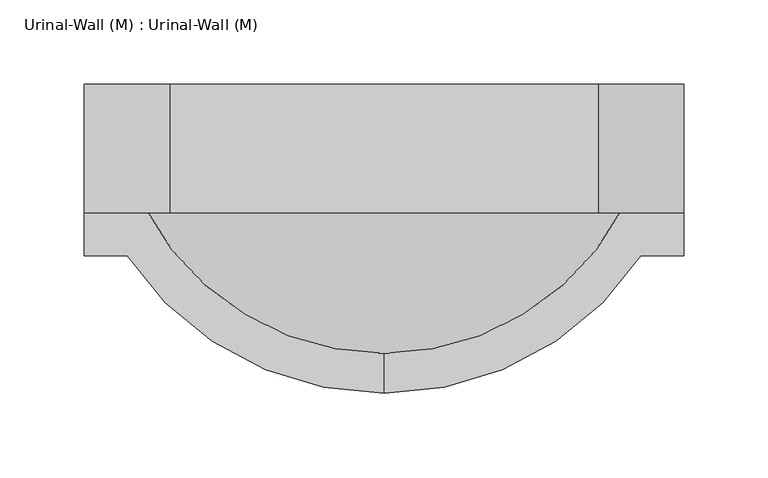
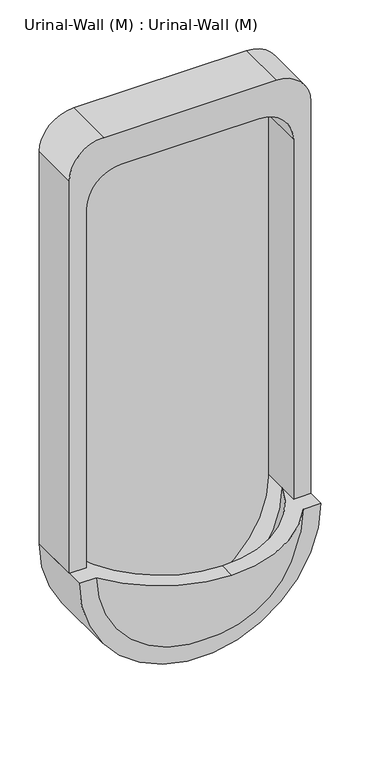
"""IFC4 building model written with IfcOpenShell, lengths in millimetres: flow terminal geometry, Urinal-Wall (M) : Urinal-Wall (M)."""

from ifc_helpers import new_model, si_unit, point, frame, frame_2d, origin, place, context, project, spatial, polyline, circle_curve, ellipse_curve, trimmed, segment, composite_curve, outline, extrude, source, transform, mapped, element, save
from ifc_brep_helpers import plane_surface, cylinder_surface, revolved_surface, advanced_brep


def urinal_wall_m_urinal_wall_m_4b0fecbf(model_context):
    return source(origin(), model_context, "Body", "SolidModel", [
        extrude(outline(composite_curve([segment(polyline([(610.0, 43.3254001), (610.0, 68.7254001), (1219.6, 68.7254001)]), True, "CONTINUOUS"), segment(trimmed(circle_curve(frame_2d((1219.6, 17.9254001)), 50.8), [point((1219.6, 68.7254001))], [point((1270.4, 17.9254001))], False, "CARTESIAN"), True, "CONTINUOUS"), segment(polyline([(1270.4, 17.9254001), (1270.4, -236.0745999)]), True, "CONTINUOUS"), segment(trimmed(circle_curve(frame_2d((1219.6, -236.0745999)), 50.8), [point((1270.4, -236.0745999))], [point((1219.6, -286.8745999))], False, "CARTESIAN"), True, "CONTINUOUS"), segment(polyline([(1219.6, -286.8745999), (610.0, -286.8745999), (610.0, -261.4745999), (1168.8, -261.4745999)]), True, "CONTINUOUS"), segment(trimmed(circle_curve(frame_2d((1168.8, -210.6745999)), 50.8), [point((1168.8, -261.4745999))], [point((1219.6, -210.6745999))], True, "CARTESIAN"), True, "CONTINUOUS"), segment(polyline([(1219.6, -210.6745999), (1219.6, -7.4745999)]), True, "CONTINUOUS"), segment(trimmed(circle_curve(frame_2d((1168.8, -7.4745999)), 50.8), [point((1219.6, -7.4745999))], [point((1168.8, 43.3254001))], True, "CARTESIAN"), True, "CONTINUOUS"), segment(polyline([(1168.8, 43.3254001), (610.0, 43.3254001)]), True, "CONTINUOUS")], self_intersect=False)), frame((0.0, -176.2, 0.0), z_axis=(0.0, 1.0, 0.0), x_axis=(0.0, 0.0, 1.0)), (0.0, 0.0, 1.0), 76.2),
        extrude(outline(composite_curve([segment(trimmed(circle_curve(frame_2d((1168.8, -7.4745999)), 50.8), [point((1168.8, 43.3254001))], [point((1219.6, -7.4745999))], False, "CARTESIAN"), True, "CONTINUOUS"), segment(polyline([(1219.6, -7.4745999), (1219.6, -210.6745999)]), True, "CONTINUOUS"), segment(trimmed(circle_curve(frame_2d((1168.8, -210.6745999)), 50.8), [point((1219.6, -210.6745999))], [point((1168.8, -261.4745999))], False, "CARTESIAN"), True, "CONTINUOUS"), segment(polyline([(1168.8, -261.4745999), (610.0, -261.4745999)]), True, "CONTINUOUS"), segment(trimmed(circle_curve(frame_2d((610.0, -109.0745999)), 152.4), [point((610.0, -261.4745999))], [point((610.0, 43.3254001))], False, "CARTESIAN"), True, "CONTINUOUS"), segment(polyline([(610.0, 43.3254001), (1168.8, 43.3254001)]), True, "CONTINUOUS")], self_intersect=False)), frame((0.0, -112.7, 0.0), z_axis=(0.0, 1.0, 0.0), x_axis=(0.0, 0.0, 1.0)), (0.0, 0.0, 1.0), 12.7),
        advanced_brep(
        [(-109.0745999, -283.1620048, 610.0), (43.3254001, -201.6, 610.0), (68.7254001, -201.6, 610.0), (68.7254001, -100.0, 610.0), (43.3254001, -100.0, 610.0), (43.3254001, -146.8706063, 610.0), (-109.0745999, -259.4447043, 610.0), (-261.4745999, -146.8706063, 610.0), (-261.4745999, -100.0, 610.0), (-286.8745999, -100.0, 610.0), (-286.8745999, -201.6, 610.0), (-261.4745999, -201.6, 610.0)],
        [
            (0, 1, circle_curve(frame((-109.0745999, -100.0, 610.0), z_axis=(0.0, 0.0, 1.0), x_axis=(1.0, 0.0, 0.0)), 183.1620048)),
            (1, 2),
            (2, 3),
            (3, 4),
            (4, 5),
            (5, 6, circle_curve(frame((-109.0745999, -100.0, 610.0), z_axis=(0.0, 0.0, -1.0), x_axis=(1.0, 0.0, 0.0)), 159.4447043)),
            (6, 0),
            (6, 7, circle_curve(frame((-109.0745999, -100.0, 610.0), z_axis=(0.0, 0.0, -1.0), x_axis=(-1.0, 0.0, 0.0)), 159.4447043)),
            (7, 8),
            (8, 9),
            (9, 10),
            (10, 11),
            (11, 0, circle_curve(frame((-109.0745999, -100.0, 610.0), z_axis=(0.0, 0.0, 1.0), x_axis=(-1.0, 0.0, 0.0)), 183.1620048)),
            (5, 7, circle_curve(frame((-109.0745999, -146.8706063, 610.0), z_axis=(0.0, 1.0, 0.0), x_axis=(1.0, 0.0, 0.0)), 152.4)),
            (4, 8, circle_curve(frame((-109.0745999, -100.0, 610.0), z_axis=(0.0, 1.0, 0.0), x_axis=(1.0, 0.0, 0.0)), 152.4)),
            (3, 9, circle_curve(frame((-109.0745999, -100.0, 610.0), z_axis=(0.0, 1.0, 0.0), x_axis=(1.0, 0.0, 0.0)), 177.8)),
            (2, 10, circle_curve(frame((-109.0745999, -201.6, 610.0), z_axis=(0.0, 1.0, 0.0), x_axis=(1.0, 0.0, 0.0)), 177.8)),
            (1, 11, circle_curve(frame((-109.0745999, -201.6, 610.0), z_axis=(0.0, 1.0, 0.0), x_axis=(1.0, 0.0, 0.0)), 152.4)),
        ],
        [
            plane_surface(frame((-109.0745999, -389.2104173, 610.0), z_axis=(0.0, 0.0, 1.0), x_axis=(1.0, 0.0, 0.0))),
            plane_surface(frame((-109.0745999, -389.2104173, 610.0), z_axis=(0.0, 0.0, 1.0), x_axis=(-1.0, 0.0, 0.0))),
            revolved_surface(trimmed(ellipse_curve(frame((-109.0745999, -100.0, 610.0), z_axis=(0.0, 0.0, 1.0), x_axis=(1.0, 0.0, 0.0)), 159.4447043, 159.4447043), [point((-109.0745999, -259.4447043, 610.0))], [point((43.3254001, -146.8706063, 610.0))], True, "CARTESIAN"), (-109.0745999, -389.2104173, 610.0), (0.0, -1.0, 0.0)),
            revolved_surface(polyline([(43.32540010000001, -146.8706063, 610.0), (43.32540010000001, -100.0, 610.0)]), (-109.0745999, -389.2104173, 610.0), (0.0, -1.0, 0.0)),
            plane_surface(frame((-109.0745999, -100.0, 610.0), z_axis=(0.0, 1.0, 0.0), x_axis=(1.0, 0.0, 0.0))),
            cylinder_surface(frame((-109.0745999, -389.2104173, 610.0), z_axis=(0.0, -1.0, 0.0), x_axis=(1.0, 0.0, 0.0)), 177.8),
            plane_surface(frame((-109.0745999, -201.6, 610.0), z_axis=(0.0, -1.0, 0.0), x_axis=(1.0, 0.0, 0.0))),
            revolved_surface(trimmed(ellipse_curve(frame((-109.0745999, -100.0, 610.0), z_axis=(0.0, 0.0, -1.0), x_axis=(1.0, 0.0, 0.0)), 183.1620048, 183.1620048), [point((43.3254001, -201.6, 610.0))], [point((-109.0745999, -283.1620048, 610.0))], True, "CARTESIAN"), (-109.0745999, -389.2104173, 610.0), (0.0, -1.0, 0.0)),
        ],
        [
            (0, [[1, 2, 3, 4, 5, 6, 7]]),
            (1, [[-7, 8, 9, 10, 11, 12, 13]]),
            (2, [[-8, -6, 14]]),
            (3, [[-9, -14, -5, 15]]),
            (4, [[-10, -15, -4, 16]]),
            (5, [[-11, -16, -3, 17]]),
            (6, [[-12, -17, -2, 18]]),
            (7, [[-13, -18, -1]]),
        ],
    ),
    ])


if __name__ == "__main__":
    model = new_model("IFC4")
    model_context = context("Model", 3, world=origin())
    ifc_project = project(units=[si_unit("LENGTHUNIT", "METRE", prefix="MILLI")], contexts=[model_context])
    site = spatial("IfcSite", under=ifc_project)
    building = spatial("IfcBuilding", under=site)
    placement = place(None, origin())
    urinal_wall_m_urinal_wall_m_shape = urinal_wall_m_urinal_wall_m_4b0fecbf(model_context)
    element("IfcFlowTerminal", 1, ObjectType="Urinal-Wall (M) : Urinal-Wall (M)", at=placement, inside=building, context=model_context, shape_type="MappedRepresentation", body=[
        mapped(urinal_wall_m_urinal_wall_m_shape, transform((0.0, 0.0, 0.0), x_axis=(1.0, 0.0, 0.0), y_axis=(0.0, 1.0, 0.0), z_axis=(0.0, 0.0, 1.0))),
    ])
    save(model, "model.ifc")
